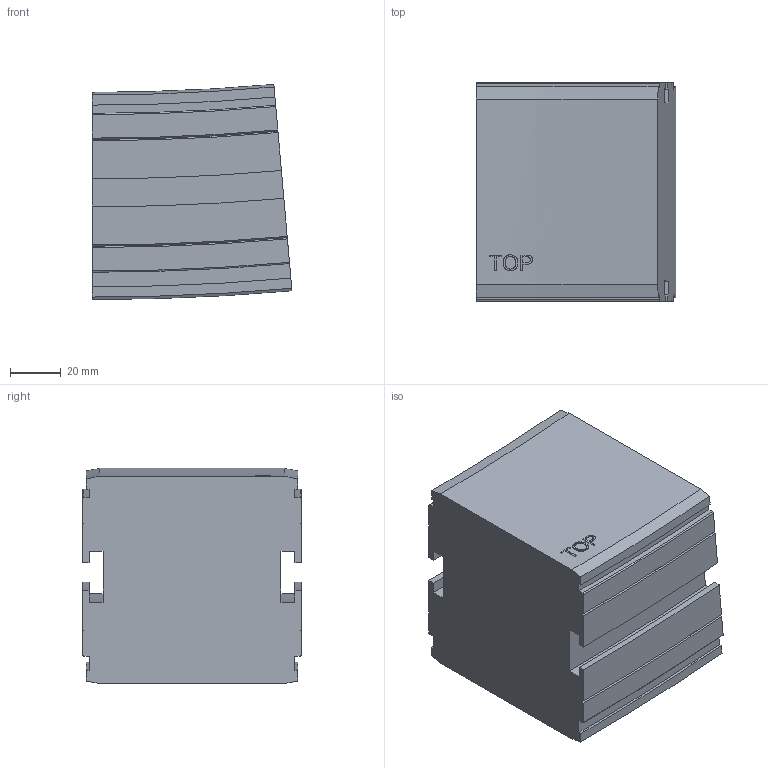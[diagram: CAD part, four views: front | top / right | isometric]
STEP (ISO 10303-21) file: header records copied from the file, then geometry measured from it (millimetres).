
FILE_DESCRIPTION((''),'2;1');
FILE_NAME('C:\Vault Klient\Projekt\Koncept konstruktion\Serie 830 Balk\830-5650_UP.stp','2009-11-27T10:57:54',('Mathias'),(''),'Autodesk Inventor 2010','Autodesk Inventor 2010','');
FILE_SCHEMA(('AUTOMOTIVE_DESIGN { 1 0 10303 214 1 1 1 1 }'));
Length unit declared in the file: millimetre
Products named in the file (1): 830-5650_UP
Bounding box: 78.61 x 86 x 84.62 mm (x, y, z)
Volume: 499560.4 mm3; surface area: 44002.9 mm2
Topology: 1 solids, 1 shells, 93 faces, 258 edges, 172 vertices
Faces by surface type: plane 40, cylinder 23, bspline 14, cone 12, torus 4
Entity records: 3437 total; most frequent: CARTESIAN_POINT 1002, ORIENTED_EDGE 516, DIRECTION 472, EDGE_CURVE 258, VERTEX_POINT 172, AXIS2_PLACEMENT_3D 162, VECTOR 148, LINE 148
